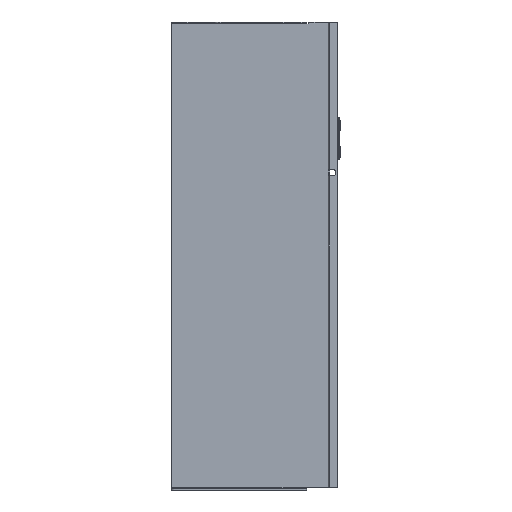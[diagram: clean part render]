
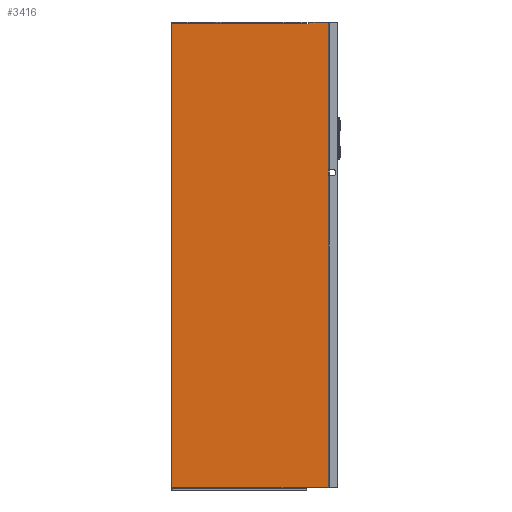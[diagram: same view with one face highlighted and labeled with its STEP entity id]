
A CAD part, left-side view. The second image highlights one B-rep face of the part: STEP entity #3416.
In plain terms, the highlighted planar face has unit normal (-1, 0, 0).
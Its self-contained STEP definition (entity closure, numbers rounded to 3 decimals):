
#44 = EDGE_CURVE ( 'NONE', #11078, #5804, #11536, .T. ) ;
#70 = EDGE_CURVE ( 'NONE', #1812, #11078, #11116, .T. ) ;
#371 = VECTOR ( 'NONE', #11527, 1000. ) ;
#488 = CARTESIAN_POINT ( 'NONE',  ( 0., 0., -219. ) ) ;
#517 = DIRECTION ( 'NONE',  ( 0., 0., -1. ) ) ;
#1144 = CIRCLE ( 'NONE', #7274, 0.2 ) ;
#1652 = DIRECTION ( 'NONE',  ( 0., -1., 0. ) ) ;
#1662 = LINE ( 'NONE', #15838, #11987 ) ;
#1812 = VERTEX_POINT ( 'NONE', #4020 ) ;
#1835 = DIRECTION ( 'NONE',  ( -1., 0., 0. ) ) ;
#1884 = VECTOR ( 'NONE', #1652, 1000. ) ;
#2137 = AXIS2_PLACEMENT_3D ( 'NONE', #12467, #4361, #13812 ) ;
#2145 = ORIENTED_EDGE ( 'NONE', *, *, #8628, .T. ) ;
#2199 = VERTEX_POINT ( 'NONE', #6407 ) ;
#2411 = EDGE_CURVE ( 'NONE', #2199, #11053, #10245, .T. ) ;
#2590 = CARTESIAN_POINT ( 'NONE',  ( 0., 20.3, 218.5 ) ) ;
#2704 = CARTESIAN_POINT ( 'NONE',  ( 0., 18.5, 218.7 ) ) ;
#2762 = VECTOR ( 'NONE', #7598, 1000. ) ;
#2842 = VERTEX_POINT ( 'NONE', #13259 ) ;
#2970 = CARTESIAN_POINT ( 'NONE',  ( 0., 148., 220. ) ) ;
#3251 = CARTESIAN_POINT ( 'NONE',  ( 0., 0., 220. ) ) ;
#3416 = ADVANCED_FACE ( 'NONE', ( #11478 ), #13948, .T. ) ;
#3562 = CARTESIAN_POINT ( 'NONE',  ( 0., 20.3, 218.7 ) ) ;
#4020 = CARTESIAN_POINT ( 'NONE',  ( 0., 18.7, 218.5 ) ) ;
#4281 = DIRECTION ( 'NONE',  ( 0., 0., -1. ) ) ;
#4361 = DIRECTION ( 'NONE',  ( 1., 0., 0. ) ) ;
#4440 = CARTESIAN_POINT ( 'NONE',  ( 0., 20.5, 218.5 ) ) ;
#4495 = DIRECTION ( 'NONE',  ( 1., 0., 0. ) ) ;
#4559 = DIRECTION ( 'NONE',  ( 0., 0., -1. ) ) ;
#4794 = VERTEX_POINT ( 'NONE', #488 ) ;
#4857 = VERTEX_POINT ( 'NONE', #15377 ) ;
#4946 = ORIENTED_EDGE ( 'NONE', *, *, #44, .T. ) ;
#5114 = VECTOR ( 'NONE', #4281, 1000. ) ;
#5268 = EDGE_CURVE ( 'NONE', #2842, #4857, #5441, .T. ) ;
#5441 = LINE ( 'NONE', #14962, #1884 ) ;
#5539 = LINE ( 'NONE', #2970, #5114 ) ;
#5562 = EDGE_CURVE ( 'NONE', #10331, #5804, #1662, .T. ) ;
#5804 = VERTEX_POINT ( 'NONE', #12792 ) ;
#6407 = CARTESIAN_POINT ( 'NONE',  ( 0., 18.5, 219.8 ) ) ;
#6634 = VECTOR ( 'NONE', #14185, 1000. ) ;
#6772 = VECTOR ( 'NONE', #17161, 1000. ) ;
#7204 = LINE ( 'NONE', #9082, #6772 ) ;
#7209 = CARTESIAN_POINT ( 'NONE',  ( 0., 0., 220. ) ) ;
#7274 = AXIS2_PLACEMENT_3D ( 'NONE', #9919, #1835, #11260 ) ;
#7598 = DIRECTION ( 'NONE',  ( 0., -1., 0. ) ) ;
#8069 = AXIS2_PLACEMENT_3D ( 'NONE', #3562, #4495, #4559 ) ;
#8159 = CARTESIAN_POINT ( 'NONE',  ( 0., 148., 218.8 ) ) ;
#8550 = DIRECTION ( 'NONE',  ( -1., 0., 0. ) ) ;
#8628 = EDGE_CURVE ( 'NONE', #4794, #4857, #9410, .T. ) ;
#8648 = DIRECTION ( 'NONE',  ( 0., 0., 1. ) ) ;
#8919 = AXIS2_PLACEMENT_3D ( 'NONE', #7209, #8550, #517 ) ;
#8997 = ORIENTED_EDGE ( 'NONE', *, *, #5268, .F. ) ;
#9082 = CARTESIAN_POINT ( 'NONE',  ( 0., 0., 218.8 ) ) ;
#9115 = ORIENTED_EDGE ( 'NONE', *, *, #70, .T. ) ;
#9229 = DIRECTION ( 'NONE',  ( 0., 0., -1. ) ) ;
#9410 = LINE ( 'NONE', #3251, #12602 ) ;
#9583 = CARTESIAN_POINT ( 'NONE',  ( 0., 148., -219. ) ) ;
#9611 = ORIENTED_EDGE ( 'NONE', *, *, #10335, .T. ) ;
#9919 = CARTESIAN_POINT ( 'NONE',  ( 0., 18.7, 218.7 ) ) ;
#9931 = LINE ( 'NONE', #17050, #2762 ) ;
#10245 = LINE ( 'NONE', #12836, #6634 ) ;
#10331 = VERTEX_POINT ( 'NONE', #12399 ) ;
#10335 = EDGE_CURVE ( 'NONE', #13501, #15126, #5539, .T. ) ;
#10415 = EDGE_CURVE ( 'NONE', #1812, #11053, #1144, .T. ) ;
#10848 = EDGE_LOOP ( 'NONE', ( #4946, #13646, #11562, #9611, #12640, #2145, #8997, #17120, #11476, #12308, #9115 ) ) ;
#11053 = VERTEX_POINT ( 'NONE', #2704 ) ;
#11078 = VERTEX_POINT ( 'NONE', #2590 ) ;
#11116 = LINE ( 'NONE', #4440, #371 ) ;
#11260 = DIRECTION ( 'NONE',  ( 0., 0., -1. ) ) ;
#11344 = EDGE_CURVE ( 'NONE', #13501, #10331, #7204, .T. ) ;
#11476 = ORIENTED_EDGE ( 'NONE', *, *, #2411, .T. ) ;
#11478 = FACE_OUTER_BOUND ( 'NONE', #10848, .T. ) ;
#11487 = EDGE_CURVE ( 'NONE', #2199, #2842, #15423, .T. ) ;
#11527 = DIRECTION ( 'NONE',  ( 0., 1., 0. ) ) ;
#11536 = CIRCLE ( 'NONE', #8069, 0.2 ) ;
#11562 = ORIENTED_EDGE ( 'NONE', *, *, #11344, .F. ) ;
#11987 = VECTOR ( 'NONE', #9229, 1000. ) ;
#12308 = ORIENTED_EDGE ( 'NONE', *, *, #10415, .F. ) ;
#12399 = CARTESIAN_POINT ( 'NONE',  ( 0., 20.5, 218.8 ) ) ;
#12467 = CARTESIAN_POINT ( 'NONE',  ( 0., 18.3, 219.8 ) ) ;
#12602 = VECTOR ( 'NONE', #8648, 1000. ) ;
#12640 = ORIENTED_EDGE ( 'NONE', *, *, #17440, .T. ) ;
#12792 = CARTESIAN_POINT ( 'NONE',  ( 0., 20.5, 218.7 ) ) ;
#12836 = CARTESIAN_POINT ( 'NONE',  ( 0., 18.5, 220. ) ) ;
#13259 = CARTESIAN_POINT ( 'NONE',  ( 0., 18.3, 220. ) ) ;
#13501 = VERTEX_POINT ( 'NONE', #8159 ) ;
#13646 = ORIENTED_EDGE ( 'NONE', *, *, #5562, .F. ) ;
#13812 = DIRECTION ( 'NONE',  ( 0., 0., -1. ) ) ;
#13948 = PLANE ( 'NONE',  #8919 ) ;
#14185 = DIRECTION ( 'NONE',  ( 0., 0., -1. ) ) ;
#14962 = CARTESIAN_POINT ( 'NONE',  ( 0., 0., 220. ) ) ;
#15126 = VERTEX_POINT ( 'NONE', #9583 ) ;
#15377 = CARTESIAN_POINT ( 'NONE',  ( 0., 0., 220. ) ) ;
#15423 = CIRCLE ( 'NONE', #2137, 0.2 ) ;
#15838 = CARTESIAN_POINT ( 'NONE',  ( 0., 20.5, 218.8 ) ) ;
#17050 = CARTESIAN_POINT ( 'NONE',  ( 0., 20.5, -219. ) ) ;
#17120 = ORIENTED_EDGE ( 'NONE', *, *, #11487, .F. ) ;
#17161 = DIRECTION ( 'NONE',  ( 0., -1., 0. ) ) ;
#17440 = EDGE_CURVE ( 'NONE', #15126, #4794, #9931, .T. ) ;
